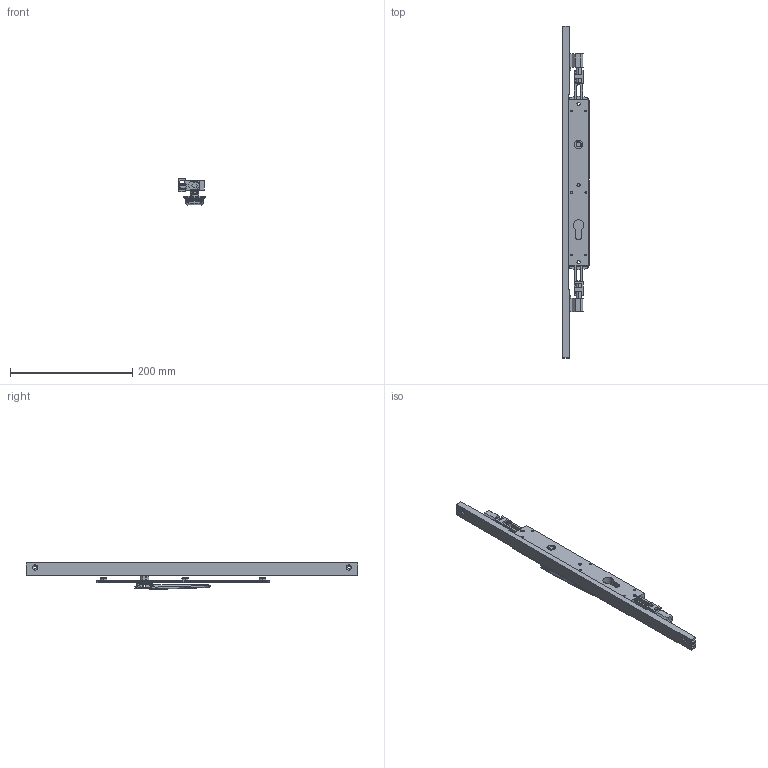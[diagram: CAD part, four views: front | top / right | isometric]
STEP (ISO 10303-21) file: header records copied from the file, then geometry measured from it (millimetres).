
FILE_DESCRIPTION (( 'STEP AP214' ), '1' );
FILE_NAME ('TPL-W-APC-605-L 28Oct2024.STEP', '2024-10-28T01:50:02', ( '' ), ( '' ), 'SwSTEP 2.0', 'SolidWorks 2023', '' );
FILE_SCHEMA (( 'AUTOMOTIVE_DESIGN' ));
Length unit declared in the file: millimetre
Products named in the file (18): Copy of COV-115-B Cover B suit TPLGen2 standard range AU with hinge holes^TPL-W-APC-105 18Oct2024_2870mm; Copy of LKC-505 Swing handle zinc - simplified^Copy of TPGen2 handle non-keyed long zinc - simplified_TPL-W-APC-105 18Oct2024; Copy of LKC-585 Rotator body zinc^Copy of TPGen2 handle non-keyed long zinc - simplified_TPL-W-APC-105 18Oct2024; Copy of TPGen2 handle non-keyed long zinc - simplified^TPL-W-APC-105 18Oct2024_Vertical; Copy of COV-115-C Cover C suit TPLGen2 standard range AU^TPL-W-APC-105 18Oct2024; Copy of COV-115-A Cover A suit TPLGen2 standard range AU with hinge holes^TPL-W-APC-105 18Oct2024_2870mm; Copy of Adapter D - simplfied^TPL-W-APC-105 18Oct2024; Copy of TPLGen2 lock body keyed assembly^TPL-W-APC-105 18Oct2024_Bolts extended; Bolt.step; Copy of LKC-583 Escutcheon plate unkeyed 285mm long zinc - simplified^Copy of TPGen2 handle non-keyed long zinc - simplified_TPL-W-APC-105 18Oct2024; Copy of Copy of LKC-531 Lock twinpoint transmission rod wood system^TPL-W-APC-105 18Oct2024_Standard Range 2891.7mm; Copy of TPLGen2 lock body keyed^Copy of TPLGen2 lock body keyed assembly_TPL-W-APC-105 18Oct2024; Copy of Copy of Copy of LKC-531 Lock twinpoint transmission rod wood system^TPL-W-APC-105 18Oct2024_Standard Range 2891.7mm; Copy of TPLGen2 push rod - simplified^Copy of TPLGen2 lock body keyed assembly_TPL-W-APC-105 18Oct2024_Female thread M10; Copy of LKC-584 Pivot body zinc - simplified^Copy of TPGen2 handle non-keyed long zinc - simplified_TPL-W-APC-105 18Oct2024; Copy of LKC-586 Spindle square 8mm with M4 hole^Copy of TPGen2 handle non-keyed long zinc - simplified_TPL-W-APC-105 18Oct2024_25mm; Copy of Adapter C - simplfied^TPL-W-APC-105 18Oct2024; TPL-W-APC-605-L 28Oct2024
Assembly tree (15 placements, depth 3):
  Copy of COV-115-B Cover B suit TPLGen2 standard range AU with hinge holes^TPL-W-APC-105 18Oct2024_2870mm
  Copy of COV-115-A Cover A suit TPLGen2 standard range AU with hinge holes^TPL-W-APC-105 18Oct2024_2870mm
  Bolt.step
  TPL-W-APC-605-L 28Oct2024
    Copy of TPLGen2 lock body keyed assembly^TPL-W-APC-105 18Oct2024_Bolts extended
      Copy of TPLGen2 lock body keyed^Copy of TPLGen2 lock body keyed assembly_TPL-W-APC-105 18Oct2024
      Copy of TPLGen2 push rod - simplified^Copy of TPLGen2 lock body keyed assembly_TPL-W-APC-105 18Oct2024_Female thread M10  x2
    Copy of TPGen2 handle non-keyed long zinc - simplified^TPL-W-APC-105 18Oct2024_Vertical
      Copy of LKC-583 Escutcheon plate unkeyed 285mm long zinc - simplified^Copy of TPGen2 handle non-keyed long zinc - simplified_TPL-W-APC-105 18Oct2024
      Copy of LKC-505 Swing handle zinc - simplified^Copy of TPGen2 handle non-keyed long zinc - simplified_TPL-W-APC-105 18Oct2024
      Copy of LKC-585 Rotator body zinc^Copy of TPGen2 handle non-keyed long zinc - simplified_TPL-W-APC-105 18Oct2024
      Copy of LKC-586 Spindle square 8mm with M4 hole^Copy of TPGen2 handle non-keyed long zinc - simplified_TPL-W-APC-105 18Oct2024_25mm
      Copy of LKC-584 Pivot body zinc - simplified^Copy of TPGen2 handle non-keyed long zinc - simplified_TPL-W-APC-105 18Oct2024
    Copy of COV-115-C Cover C suit TPLGen2 standard range AU^TPL-W-APC-105 18Oct2024
    Copy of Copy of LKC-531 Lock twinpoint transmission rod wood system^TPL-W-APC-105 18Oct2024_Standard Range 2891.7mm
    Copy of Copy of Copy of LKC-531 Lock twinpoint transmission rod wood system^TPL-W-APC-105 18Oct2024_Standard Range 2891.7mm
    Copy of Adapter C - simplfied^TPL-W-APC-105 18Oct2024
    Copy of Adapter D - simplfied^TPL-W-APC-105 18Oct2024
Bounding box: 43.5 x 544 x 42.86 mm (x, y, z)
Volume: 263043.3 mm3; surface area: 128712.6 mm2
Topology: 13 solids, 13 shells, 879 faces, 2163 edges, 1344 vertices
Faces by surface type: plane 306, bspline 241, cylinder 202, cone 70, torus 52, sphere 8
Entity records: 31536 total; most frequent: CARTESIAN_POINT 12721, ORIENTED_EDGE 4134, DIRECTION 3369, EDGE_CURVE 2067, VERTEX_POINT 1284, AXIS2_PLACEMENT_3D 1238, EDGE_LOOP 939, VECTOR 893
